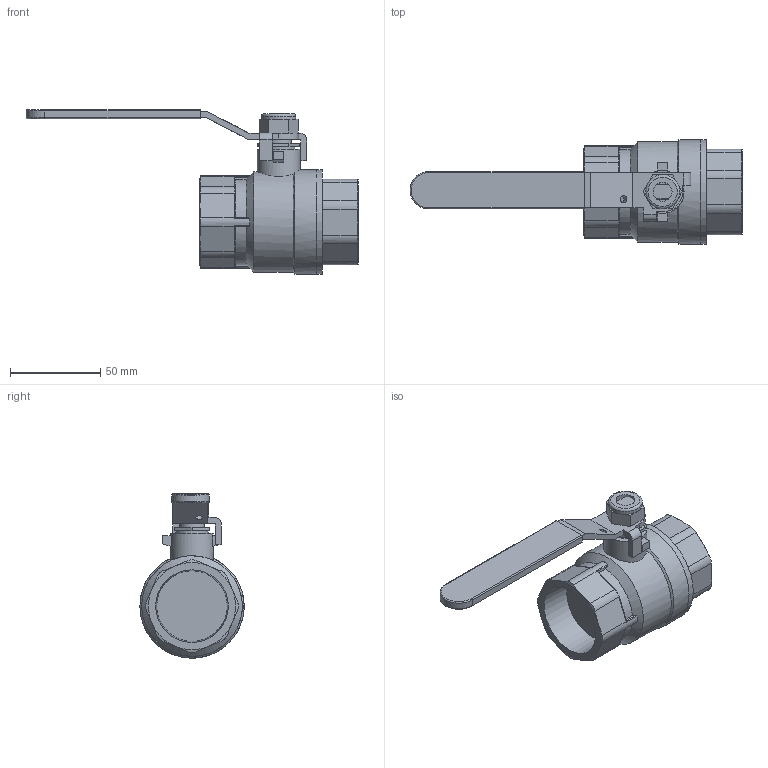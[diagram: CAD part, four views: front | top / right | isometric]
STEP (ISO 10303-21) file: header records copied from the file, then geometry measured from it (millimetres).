
FILE_DESCRIPTION((' '),'2;1');
FILE_NAME('N:\Technical Support\Private\Jomar Valve CAD\Ball Valves\Brass\1.25 JF-100T (100-106)FusionCopy.stp.step','2016-04-27T16:43:38',(' '),(' '),' ','ACIS',' ');
FILE_SCHEMA(('CONFIG_CONTROL_DESIGN'));
Length unit declared in the file: inch
Products named in the file (8): N:\Technical Support\Private\Jomar Valve CAD\Ball Valves\Brass\1.25 JF-100T (100-106)FusionCopy.stp.step; Body1; Body2; Body3; Body4; Body5; Body6; Body7
Assembly tree (7 placements, depth 2):
  N:\Technical Support\Private\Jomar Valve CAD\Ball Valves\Brass\1.25 JF-100T (100-106)FusionCopy.stp.step
    Body1
    Body2
    Body3
    Body4
    Body5
    Body6
    Body7
Bounding box: 184.02 x 57.78 x 91.15 mm (x, y, z)
Volume: 178005.3 mm3; surface area: 45857.3 mm2
Topology: 7 solids, 7 shells, 204 faces, 508 edges, 325 vertices
Faces by surface type: plane 102, cylinder 61, cone 19, torus 15, bspline 7
Full cylindrical faces by diameter (mm): 4.064 x1, 10.414 x1, 13.97 x1, 14.732 x1, 18.161 x1, 18.796 x1, 23.749 x1, 55.753 x1, 57.785 x2
Entity records: 7336 total; most frequent: CARTESIAN_POINT 1577, ORIENTED_EDGE 974, DIRECTION 959, EDGE_CURVE 487, AXIS2_PLACEMENT_3D 357, VERTEX_POINT 318, VECTOR 245, LINE 245
